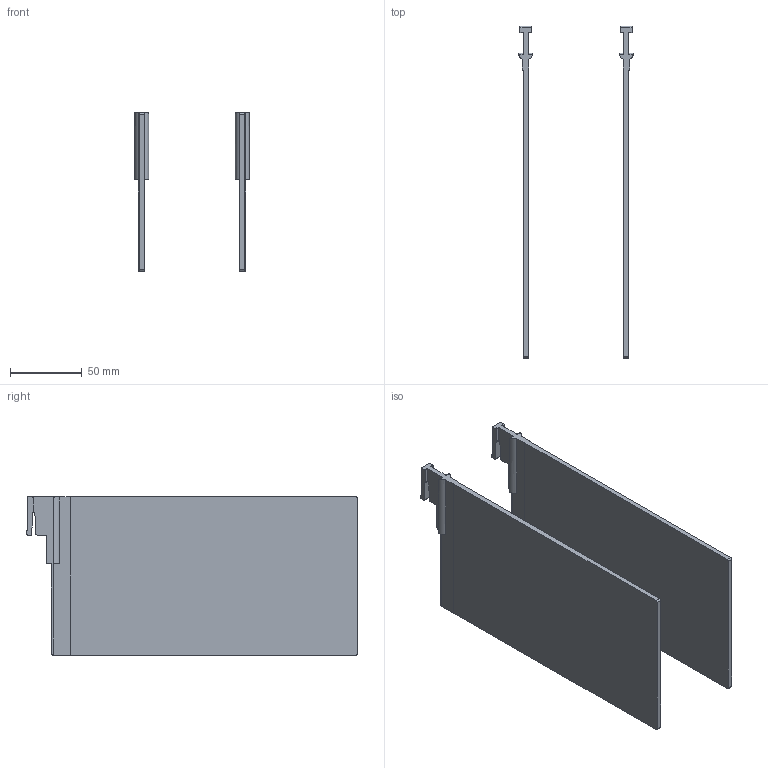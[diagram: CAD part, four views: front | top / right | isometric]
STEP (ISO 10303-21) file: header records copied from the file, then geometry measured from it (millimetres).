
FILE_DESCRIPTION (( 'STEP AP214' ), '1' );
FILE_NAME ('Ïåðåãîðîäêè ìåæïîëþñíûå OptiMat D1600ÂÈ íèæíèå.STEP', '2023-07-10T12:50:00', ( '' ), ( '' ), 'SwSTEP 2.0', 'SolidWorks 2018', '' );
FILE_SCHEMA (( 'AUTOMOTIVE_DESIGN' ));
Length unit declared in the file: millimetre
Products named in the file (1): Ïåðåãîðîäêè ìåæïîëþñíûå OptiMat D1600ÂÈ íèæíèå
Bounding box: 79.8 x 230.85 x 110 mm (x, y, z)
Volume: 172662.6 mm3; surface area: 102498.8 mm2
Topology: 2 solids, 2 shells, 90 faces, 258 edges, 172 vertices
Faces by surface type: plane 54, cylinder 36
Entity records: 4015 total; most frequent: CARTESIAN_POINT 557, ORIENTED_EDGE 516, DIRECTION 508, EDGE_CURVE 258, LINE 182, VECTOR 182, VERTEX_POINT 172, AXIS2_PLACEMENT_3D 163
